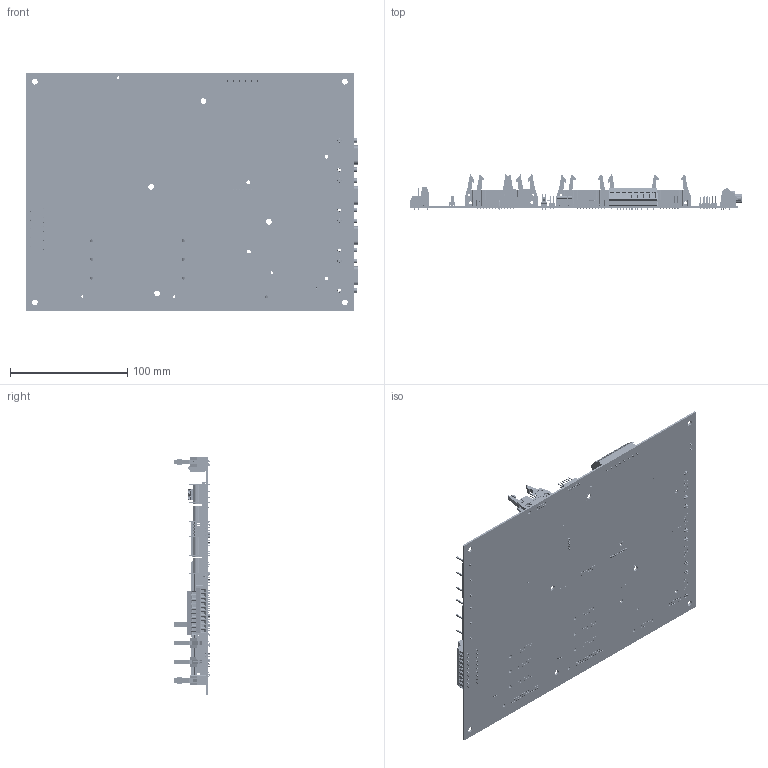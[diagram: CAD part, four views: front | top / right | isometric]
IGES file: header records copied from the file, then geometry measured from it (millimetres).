
Start section: SolidWorks IGES file using analytic representation for surfaces
Global section: file name: Z:\solidworks_parts\pcb_assemblies\10524.IGS; native system: SolidWorks 2010; preprocessor: SolidWorks 2010; author: rstaley; date: 101223.104504; units: inch
Bounding box: 282.92 x 30.9 x 203.22 mm (x, y, z)
Surface area: 182914 mm2 (no closed solid volume)
Topology: 0 solids, 0 shells, 11705 faces, 91712 edges, 91581 vertices
Faces by surface type: bspline 9172, revolution 2533
